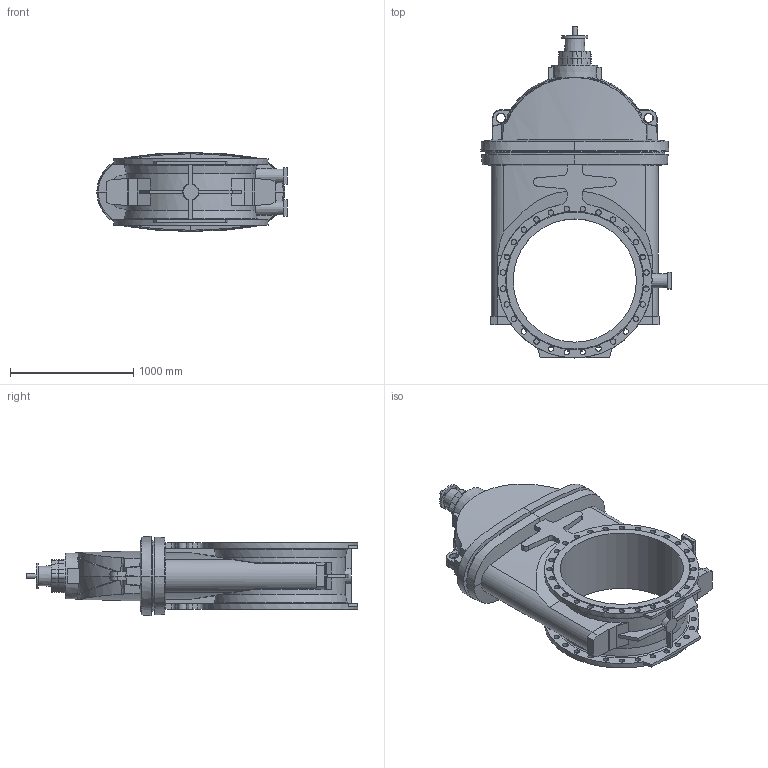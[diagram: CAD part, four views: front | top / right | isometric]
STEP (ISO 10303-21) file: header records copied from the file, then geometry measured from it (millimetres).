
FILE_DESCRIPTION (( 'STEP AP203' ), '1' );
FILE_NAME ('O_06_30_DN1000_X91XXXXX_AA0.step', '2019-03-20T10:06:16', ( 'Windows User' ), ( 'AVK' ), 'SwSTEP 2.0', 'SolidWorks 2012', '' );
FILE_SCHEMA (( 'CONFIG_CONTROL_DESIGN' ));
Length unit declared in the file: millimetre
Products named in the file (1): O_06_30_DN1000_X91XXXXX_AA0
Bounding box: 1544.5 x 2694.75 x 642.5 mm (x, y, z)
Volume: 724932472.1 mm3; surface area: 11645598.4 mm2
Topology: 1 solids, 1 shells, 400 faces, 1204 edges, 816 vertices
Faces by surface type: plane 188, cylinder 107, cone 60, bspline 41, torus 4
Full cylindrical faces by diameter (mm): 23 x4, 40 x1, 44 x56, 210 x1, 1000 x1
Entity records: 17252 total; most frequent: CARTESIAN_POINT 7363, ORIENTED_EDGE 2134, DIRECTION 1752, EDGE_CURVE 1067, VERTEX_POINT 752, AXIS2_PLACEMENT_3D 668, EDGE_LOOP 609, FACE_OUTER_BOUND 463
